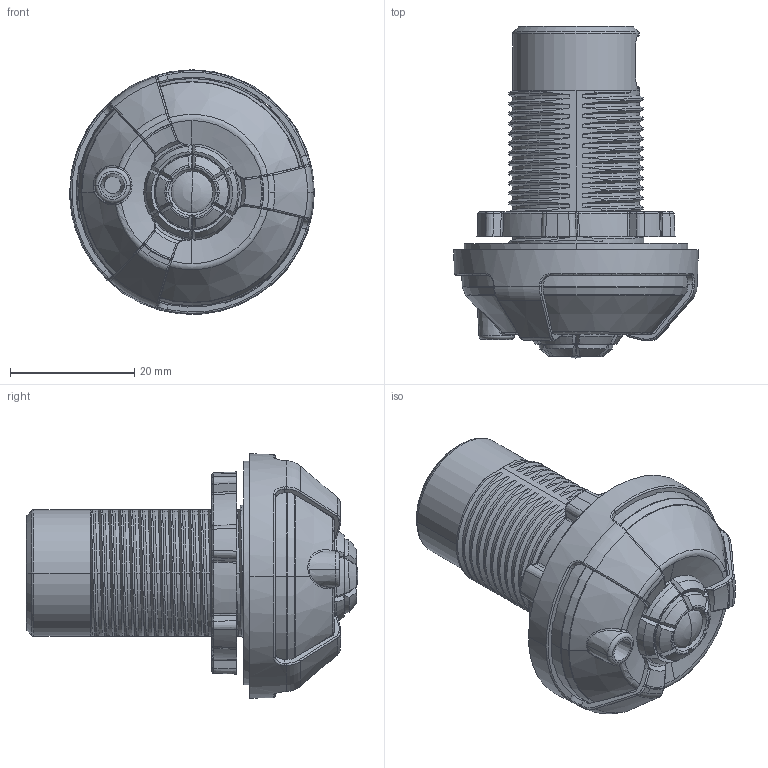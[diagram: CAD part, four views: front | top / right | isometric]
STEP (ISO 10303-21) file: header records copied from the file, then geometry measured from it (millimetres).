
FILE_DESCRIPTION(('CoCreate Modeling STEP Export'),'2;1');
FILE_NAME('RA261JA8_ALL_20230526.stp','2023-05-26T16:58:32',(''),(''),'CoCreate Modeling STEP processor for AP214 (Solid Model)','CoCreate Modeling 16.00A 16-Aug-2008 (C) Parametric Technology GmbH','');
FILE_SCHEMA(('AUTOMOTIVE_DESIGN { 1 0 10303 214 1 1 1 1 }'));
Length unit declared in the file: millimetre
Products named in the file (1): RA231HA8-1_桶身加大_客戶模組.1.1.1
Bounding box: 39.39 x 53.41 x 39.34 mm (x, y, z)
Volume: 12801.5 mm3; surface area: 17740.3 mm2
Topology: 1 solids, 1 shells, 1350 faces, 3676 edges, 2326 vertices
Faces by surface type: plane 372, bspline 309, cylinder 293, cone 226, torus 86, sphere 49, extrusion 15
Entity records: 83696 total; most frequent: CARTESIAN_POINT 55201, ORIENTED_EDGE 7324, DIRECTION 3922, EDGE_CURVE 3661, VERTEX_POINT 2328, AXIS2_PLACEMENT_3D 1467, EDGE_LOOP 1379, FACE_OUTER_BOUND 1350
